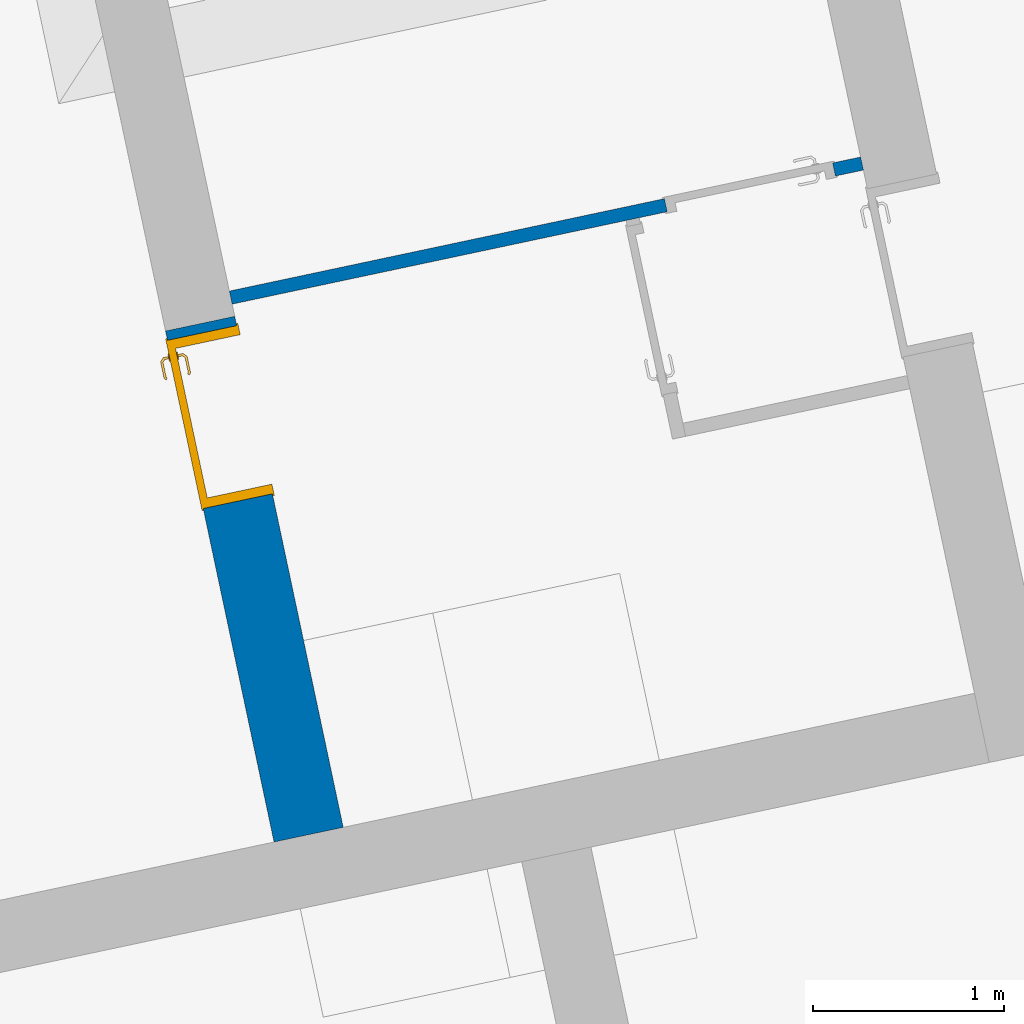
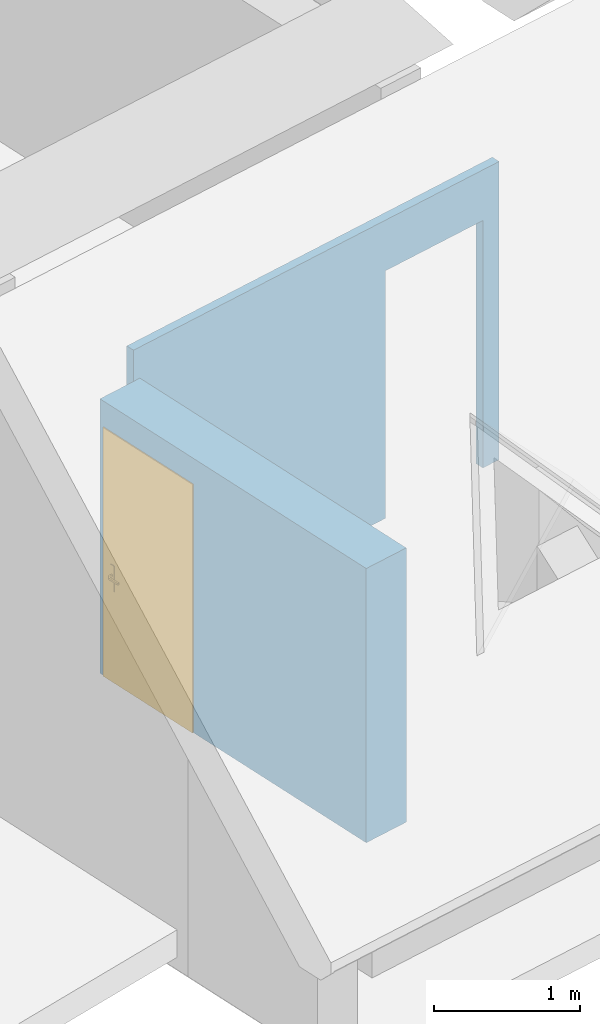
# One storey, part 3 of 10: 2 walls, 1 door, 2 openings.
"""IFC2X3 building model written with IfcOpenShell, lengths in centimetres."""

from ifc_helpers import new_model, entity, si_unit, converted_unit, derived_unit, direction, frame, frame_2d, origin, place, context, subcontext, project, spatial, rectangle, extrude, faceted_brep, source, transform, mapped, material, layer, layer_set, layer_usage, type_object, type_shapes, element, fill, save


model = new_model("IFC2X3")

# Units and contexts
model_context = context("Model", 3, precision=0.001, world=origin(), true_north=direction((6.12303176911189e-17, 1.0)))
body_context = subcontext(model_context, "Body", "Model", "MODEL_VIEW")
ifc_project = project(units=[si_unit("LENGTHUNIT", "METRE", prefix="CENTI"), si_unit("AREAUNIT", "SQUARE_METRE"), si_unit("VOLUMEUNIT", "CUBIC_METRE"), converted_unit("PLANEANGLEUNIT", "DEGREE", entity("IfcRatioMeasure", 0.0174532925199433), si_unit("PLANEANGLEUNIT", "RADIAN"), dimensions=[0, 0, 0, 0, 0, 0, 0]), si_unit("MASSUNIT", "GRAM", prefix="KILO"), derived_unit("MASSDENSITYUNIT", [(si_unit("MASSUNIT", "GRAM", prefix="KILO"), 1), (si_unit("LENGTHUNIT", "METRE"), -3)]), derived_unit("IONCONCENTRATIONUNIT", [(si_unit("MASSUNIT", "GRAM", prefix="KILO"), 1), (si_unit("LENGTHUNIT", "METRE"), -3)]), derived_unit("MOMENTOFINERTIAUNIT", [(si_unit("LENGTHUNIT", "METRE"), 4)]), si_unit("TIMEUNIT", "SECOND"), si_unit("FREQUENCYUNIT", "HERTZ"), si_unit("THERMODYNAMICTEMPERATUREUNIT", "DEGREE_CELSIUS"), derived_unit("THERMALTRANSMITTANCEUNIT", [(si_unit("MASSUNIT", "GRAM", prefix="KILO"), 1), (si_unit("THERMODYNAMICTEMPERATUREUNIT", "KELVIN"), -1), (si_unit("TIMEUNIT", "SECOND"), -3)]), derived_unit("THERMALCONDUCTANCEUNIT", [(si_unit("MASSUNIT", "GRAM", prefix="KILO"), 1), (si_unit("THERMODYNAMICTEMPERATUREUNIT", "KELVIN"), -1), (si_unit("TIMEUNIT", "SECOND"), -3), (si_unit("LENGTHUNIT", "METRE"), 1)]), derived_unit("VOLUMETRICFLOWRATEUNIT", [(si_unit("LENGTHUNIT", "METRE"), 3), (si_unit("TIMEUNIT", "SECOND"), -1)]), derived_unit("MASSFLOWRATEUNIT", [(si_unit("MASSUNIT", "GRAM", prefix="KILO"), 1), (si_unit("TIMEUNIT", "SECOND"), -1)]), derived_unit("ROTATIONALFREQUENCYUNIT", [(si_unit("TIMEUNIT", "SECOND"), -1)]), si_unit("ELECTRICCURRENTUNIT", "AMPERE"), si_unit("ELECTRICVOLTAGEUNIT", "VOLT"), si_unit("POWERUNIT", "WATT"), si_unit("FORCEUNIT", "NEWTON", prefix="KILO"), si_unit("ILLUMINANCEUNIT", "LUX"), si_unit("LUMINOUSFLUXUNIT", "LUMEN"), si_unit("LUMINOUSINTENSITYUNIT", "CANDELA"), derived_unit("USERDEFINED", [(si_unit("MASSUNIT", "GRAM", prefix="KILO"), -1), (si_unit("LENGTHUNIT", "METRE"), -2), (si_unit("TIMEUNIT", "SECOND"), 3), (si_unit("LUMINOUSFLUXUNIT", "LUMEN"), 1)]), derived_unit("USERDEFINED", [(si_unit("MASSUNIT", "GRAM", prefix="KILO"), 1), (si_unit("TIMEUNIT", "SECOND"), -3), (si_unit("LENGTHUNIT", "METRE"), 3), (si_unit("ELECTRICCURRENTUNIT", "AMPERE"), -2)]), derived_unit("SOUNDPOWERUNIT", [(si_unit("MASSUNIT", "GRAM", prefix="KILO"), 1), (si_unit("TIMEUNIT", "SECOND"), -3), (si_unit("LENGTHUNIT", "METRE"), 2)]), derived_unit("SOUNDPRESSUREUNIT", [(si_unit("MASSUNIT", "GRAM", prefix="KILO"), 1), (si_unit("LENGTHUNIT", "METRE"), -1), (si_unit("TIMEUNIT", "SECOND"), -2)]), derived_unit("LINEARVELOCITYUNIT", [(si_unit("LENGTHUNIT", "METRE"), 1), (si_unit("TIMEUNIT", "SECOND"), -1)]), si_unit("PRESSUREUNIT", "PASCAL"), derived_unit("USERDEFINED", [(si_unit("MASSUNIT", "GRAM", prefix="KILO"), 1), (si_unit("LENGTHUNIT", "METRE"), -2), (si_unit("TIMEUNIT", "SECOND"), -2)]), derived_unit("LINEARFORCEUNIT", [(si_unit("MASSUNIT", "GRAM", prefix="KILO"), 1), (si_unit("TIMEUNIT", "SECOND"), -2)]), derived_unit("PLANARFORCEUNIT", [(si_unit("MASSUNIT", "GRAM", prefix="KILO"), 1), (si_unit("LENGTHUNIT", "METRE"), -1), (si_unit("TIMEUNIT", "SECOND"), -2)]), derived_unit("SPECIFICHEATCAPACITYUNIT", [(si_unit("THERMODYNAMICTEMPERATUREUNIT", "KELVIN"), -1), (si_unit("LENGTHUNIT", "METRE"), 2), (si_unit("TIMEUNIT", "SECOND"), -2)]), derived_unit("HEATINGVALUEUNIT", [(si_unit("LENGTHUNIT", "METRE"), 2), (si_unit("TIMEUNIT", "SECOND"), -2)]), derived_unit("VAPORPERMEABILITYUNIT", [(si_unit("LENGTHUNIT", "METRE"), -1), (si_unit("TIMEUNIT", "SECOND"), 1)]), derived_unit("DYNAMICVISCOSITYUNIT", [(si_unit("MASSUNIT", "GRAM", prefix="KILO"), 1), (si_unit("TIMEUNIT", "SECOND"), -1), (si_unit("LENGTHUNIT", "METRE"), -1)]), derived_unit("THERMALEXPANSIONCOEFFICIENTUNIT", [(si_unit("THERMODYNAMICTEMPERATUREUNIT", "KELVIN"), -1)]), derived_unit("MODULUSOFELASTICITYUNIT", [(si_unit("MASSUNIT", "GRAM", prefix="KILO"), 1), (si_unit("LENGTHUNIT", "METRE"), -1), (si_unit("TIMEUNIT", "SECOND"), -2)]), derived_unit("ISOTHERMALMOISTURECAPACITYUNIT", [(si_unit("LENGTHUNIT", "METRE"), 3), (si_unit("MASSUNIT", "GRAM", prefix="KILO"), -1)]), derived_unit("MOISTUREDIFFUSIVITYUNIT", [(si_unit("TIMEUNIT", "SECOND"), -1), (si_unit("LENGTHUNIT", "METRE"), 2)])], contexts=[model_context])

# Site, building, storey
site_placement = place(None, frame((14083.8920177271, -6853.25409548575, 6900.0), z_axis=(0.0, 0.0, 1.0), x_axis=(0.978188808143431, 0.207717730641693, 0.0)))
site = spatial("IfcSite", under=ifc_project, at=site_placement, Name="Surface", CompositionType="ELEMENT")
building_placement = place(site_placement, origin())
building = spatial("IfcBuilding", under=site, at=building_placement, CompositionType="ELEMENT")
storey_placement = place(building_placement, frame((0.0, 0.0, 289.0)))
storey = spatial("IfcBuildingStorey", under=building, at=storey_placement, Name="_R+1", CompositionType="ELEMENT", Elevation=289.0)

# Wall, opening, door
ifc_material_1 = material(Name="__ ENDUIT_Blanc")
ifc_layer_1 = layer(ifc_material_1, 2.0)
ifc_material_2 = material(Name="__ BETON_parpaings")
ifc_layer_2 = layer(ifc_material_2, 20.0)
ifc_material_3 = material(Name="__ ISOLANT (pat 1)")
ifc_layer_3 = layer(ifc_material_3, 13.0)
ifc_layer_4 = layer(ifc_material_1, 2.0)
ifc_layer_set_1 = layer_set([ifc_layer_1, ifc_layer_2, ifc_layer_3, ifc_layer_4], Name="Mur de base:*BRIQUE 37 (20 +INT 13+2 + EXT 2) (Iso+BA13)(enduit)")
ifc_layer_usage_1 = layer_usage(ifc_layer_set_1, "AXIS2", "POSITIVE", -18.5)
wall_type_1 = type_object("IfcWallType", Name="Mur de base:*BRIQUE 37 (20 +INT 13+2 + EXT 2) (Iso+BA13)(enduit)", PredefinedType="STANDARD", material=ifc_layer_set_1)
wall_1_placement = place(storey_placement, frame((-7520.29714756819, 15156.1673447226, 0.0), z_axis=(0.0, 0.0, 1.0), x_axis=(0.0, -1.0, 0.0)))
wall_1 = element("IfcWallStandardCase", 1, at=wall_1_placement, inside=storey, type_object=wall_type_1, material=ifc_layer_usage_1, Name="Mur de base:*BRIQUE 37 (20 +INT 13+2 + EXT 2) (Iso+BA13)(enduit)", ObjectType="Mur de base:*BRIQUE 37 (20 +INT 13+2 + EXT 2) (Iso+BA13)(enduit)", context=body_context, shape_type="SweptSolid", body=[
    extrude(rectangle(XDim=273.494866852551, YDim=37.0000000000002, at=frame_2d((136.747433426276, 0.0), x_axis=(-1.0, 0.0))), origin(), (0.0, 0.0, 1.0), 230.0),
])
opening_1_placement = place(wall_1_placement, frame((95.0, 18.5, 0.0)))
opening_1 = element("IfcOpeningElement", 2, at=opening_1_placement, cuts=wall_1, Name="*Porte_alveolaire:Pp 83 x 204:1", ObjectType="Opening", context=body_context, shape_type="SweptSolid", body=[
    extrude(rectangle(XDim=207.5, YDim=89.9999999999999, at=frame_2d((103.75, 45.0), x_axis=(1.0, 0.0))), frame((0.0, 0.0, 0.0), z_axis=(0.0, -1.0, 0.0), x_axis=(0.0, 0.0, 1.0)), (0.0, 0.0, 1.0), 37.0),
])
ifc_material_4 = material(Name="<Unnamed>")
door_style = type_object("IfcDoorStyle", Name="*Porte_alveolaire:Pp 83 x 204", ConstructionType="NOTDEFINED", OperationType="NOTDEFINED", ParameterTakesPrecedence=False, Sizeable=False, material=ifc_material_4)
shared_shape = source(origin(), body_context, "Body", "Brep", [
    faceted_brep([(8.7974701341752, 3.69999999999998, 89.2219559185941), (9.20252986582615, 3.69999999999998, 89.221955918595), (9.60000000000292, 3.69999999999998, 89.3000000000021), (9.60000000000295, 3.69999999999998, 90.699999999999), (9.20252986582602, 3.69999999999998, 90.7780440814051), (8.79747013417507, 3.69999999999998, 90.7780440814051), (8.39999999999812, 3.69999999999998, 90.699999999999), (8.39999999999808, 3.69999999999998, 89.2999999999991), (9.60000000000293, 5.94852045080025, 89.3000000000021), (9.60000000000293, 5.94852045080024, 90.699999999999), (9.20252986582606, 6.11315797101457, 90.7780440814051), (10.5838906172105, 7.49451872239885, 90.7780440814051), (10.4161093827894, 7.8995784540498, 90.7780440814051), (8.7974701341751, 6.28093920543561, 90.7780440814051), (19.5684749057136, 6.84673156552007, 90.7780440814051), (19.8548953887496, 7.13315204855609, 90.7780440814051), (19.0884689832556, 7.8995784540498, 90.7780440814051), (18.9206877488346, 7.49451872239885, 90.7780440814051), (8.39999999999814, 6.44557672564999, 90.699999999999), (8.39999999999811, 6.44557672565, 89.2999999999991), (8.7974701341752, 6.28093920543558, 89.2219559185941), (10.4161093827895, 7.89957845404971, 89.2219559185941), (10.5838906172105, 7.49451872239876, 89.221955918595), (9.20252986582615, 6.11315797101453, 89.221955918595), (19.8548953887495, 7.13315204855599, 89.221955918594), (19.5684749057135, 6.84673156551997, 89.221955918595), (18.9206877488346, 7.49451872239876, 89.221955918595), (19.0884689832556, 7.89957845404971, 89.221955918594), (10.7485281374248, 7.09704858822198, 89.3000000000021), (10.7485281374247, 7.09704858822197, 90.699999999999), (10.2514718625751, 8.29704858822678, 90.699999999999), (10.2514718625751, 8.2970485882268, 89.2999999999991), (14.7522879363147, 7.097048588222, 89.300000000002), (18.7560502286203, 7.09704858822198, 89.300000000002), (18.7560502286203, 7.09704858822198, 90.699999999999), (14.7522891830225, 7.09704858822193, 90.699999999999), (14.7522891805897, 7.71249275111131, 90.7878116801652), (19.25310650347, 8.29704858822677, 90.699999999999), (15.2600577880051, 8.29704858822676, 90.699999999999), (19.25310650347, 8.29704858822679, 89.2999999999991), (14.2445205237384, 8.29704858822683, 89.2999999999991), (14.7522892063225, 7.7124927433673, 89.2121883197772), (19.287421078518, 6.56567773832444, 89.300000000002), (20.1359492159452, 7.41420587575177, 89.2999999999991), (20.1359492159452, 7.41420587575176, 90.699999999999), (19.287421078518, 6.56567773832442, 90.699999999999)], [[[0, 1, 2, 3, 4, 5, 6, 7]], [[3, 2, 8, 9]], [[9, 10, 4, 3]], [[10, 11, 12, 13, 5, 4]], [[14, 15, 16, 17]], [[13, 18, 6, 5]], [[7, 6, 18, 19]], [[19, 20, 0, 7]], [[20, 21, 22, 23, 1, 0]], [[24, 25, 26, 27]], [[23, 8, 2, 1]], [[9, 8, 28, 29]], [[29, 11, 10, 9]], [[12, 30, 18, 13]], [[19, 18, 30, 31]], [[31, 21, 20, 19]], [[22, 28, 8, 23]], [[28, 32, 33, 34, 35, 29]], [[11, 35, 36]], [[16, 37, 38]], [[30, 12, 38]], [[38, 12, 36]], [[36, 35, 17]], [[17, 16, 36]], [[35, 11, 29]], [[34, 17, 35]], [[11, 36, 12]], [[38, 36, 16]], [[31, 30, 38, 37, 39, 40]], [[40, 41, 21]], [[41, 40, 27]], [[21, 31, 40]], [[39, 27, 40]], [[41, 32, 22]], [[22, 21, 41]], [[26, 32, 41]], [[28, 22, 32]], [[32, 26, 33]], [[26, 41, 27]], [[42, 25, 24, 43, 44, 15, 14, 45]], [[34, 33, 42, 45]], [[45, 14, 17, 34]], [[15, 44, 37, 16]], [[39, 37, 44, 43]], [[43, 24, 27, 39]], [[25, 42, 33, 26]]]),
    faceted_brep([(8.79747013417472, -1.30000000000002, 90.7780440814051), (9.20252986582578, -1.30000000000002, 90.7780440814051), (9.60000000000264, -1.30000000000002, 90.6999999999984), (9.60000000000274, -1.30000000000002, 89.3000000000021), (9.20252986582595, -1.30000000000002, 89.221955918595), (8.79747013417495, -1.30000000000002, 89.221955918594), (8.39999999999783, -1.30000000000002, 89.2999999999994), (8.39999999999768, -1.30000000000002, 90.699999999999), (8.39999999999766, -4.06509507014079, 90.6999999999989), (8.79747013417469, -3.9004575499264, 90.7780440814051), (10.402358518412, -5.50534593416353, 90.7780440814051), (10.570139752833, -5.10028620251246, 90.7780440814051), (9.20252986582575, -3.73267631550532, 90.7780440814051), (19.852181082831, -4.73891952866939, 90.778044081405), (19.5657605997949, -4.45249904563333, 90.778044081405), (18.9179734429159, -5.10028620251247, 90.778044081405), (19.085754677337, -5.50534593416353, 90.778044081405), (9.60000000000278, -3.56803879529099, 90.699999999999), (9.60000000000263, -3.56803879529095, 89.3000000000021), (9.20252986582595, -3.73267631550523, 89.221955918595), (10.5701397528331, -5.10028620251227, 89.221955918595), (10.4023585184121, -5.50534593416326, 89.221955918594), (8.79747013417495, -3.90045754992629, 89.221955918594), (19.5657605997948, -4.45249904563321, 89.221955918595), (19.8521810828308, -4.73891952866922, 89.221955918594), (19.0857546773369, -5.50534593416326, 89.221955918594), (18.9179734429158, -5.10028620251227, 89.221955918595), (8.39999999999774, -4.06509507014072, 89.2999999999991), (10.2377209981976, -5.90281606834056, 90.6999999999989), (10.7347772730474, -4.70281606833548, 90.699999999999), (10.7347772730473, -4.70281606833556, 89.3000000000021), (10.2377209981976, -5.90281606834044, 89.2999999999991), (14.2307697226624, -5.90281606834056, 90.6999999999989), (14.7440566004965, -5.31828027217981, 90.7878115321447), (19.2503921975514, -5.90281606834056, 90.6999999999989), (14.7440565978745, -4.70281606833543, 90.699999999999), (18.7533359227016, -4.70281606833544, 90.6999999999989), (18.7533359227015, -4.70281606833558, 89.300000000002), (14.7440563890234, -4.70281606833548, 89.3000000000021), (14.7440565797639, -5.31828027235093, 89.2121884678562), (19.2503921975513, -5.90281606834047, 89.2999999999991), (15.2573436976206, -5.90281606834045, 89.2999999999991), (19.2847067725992, -4.17144521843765, 90.6999999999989), (20.1332349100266, -5.01997335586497, 90.6999999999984), (20.1332349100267, -5.019973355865, 89.2999999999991), (19.2847067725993, -4.17144521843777, 89.3000000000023)], [[[0, 1, 2, 3, 4, 5, 6, 7]], [[8, 9, 0, 7]], [[9, 10, 11, 12, 1, 0]], [[13, 14, 15, 16]], [[12, 17, 2, 1]], [[3, 2, 17, 18]], [[18, 19, 4, 3]], [[19, 20, 21, 22, 5, 4]], [[23, 24, 25, 26]], [[22, 27, 6, 5]], [[7, 6, 27, 8]], [[28, 10, 9, 8]], [[11, 29, 17, 12]], [[18, 17, 29, 30]], [[30, 20, 19, 18]], [[21, 31, 27, 22]], [[8, 27, 31, 28]], [[32, 33, 10]], [[33, 32, 16]], [[10, 28, 32]], [[34, 16, 32]], [[33, 35, 11]], [[11, 10, 33]], [[15, 35, 33]], [[29, 11, 35]], [[35, 15, 36]], [[15, 33, 16]], [[30, 29, 35, 36, 37, 38]], [[20, 38, 39]], [[25, 40, 41]], [[31, 21, 41]], [[41, 21, 39]], [[39, 38, 26]], [[26, 25, 39]], [[38, 20, 30]], [[37, 26, 38]], [[20, 39, 21]], [[41, 39, 25]], [[28, 31, 41, 40, 34, 32]], [[42, 14, 13, 43, 44, 24, 23, 45]], [[43, 13, 16, 34]], [[14, 42, 36, 15]], [[37, 36, 42, 45]], [[45, 23, 26, 37]], [[24, 44, 40, 25]], [[34, 40, 44, 43]]]),
    faceted_brep([(10.03527618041, 3.19999999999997, 76.6003983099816), (11.0, 3.19999999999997, 77.0), (11.0, 3.19999999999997, 98.0), (10.03527618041, 3.19999999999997, 98.3996016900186), (9.0, 3.19999999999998, 98.5358983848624), (7.96472381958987, 3.19999999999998, 98.3996016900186), (7.0, 3.19999999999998, 98.0), (7.0, 3.19999999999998, 77.0), (7.96472381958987, 3.19999999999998, 76.6003983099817), (9.0, 3.19999999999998, 76.4641016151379), (10.03527618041, 3.69999999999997, 98.3996016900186), (11.0, 3.69999999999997, 98.0), (11.0, 3.69999999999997, 77.0), (10.03527618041, 3.69999999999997, 76.6003983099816), (9.0, 3.69999999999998, 76.4641016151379), (7.96472381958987, 3.69999999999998, 76.6003983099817), (7.0, 3.69999999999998, 77.0), (7.0, 3.69999999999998, 98.0), (7.96472381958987, 3.69999999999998, 98.3996016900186), (9.0, 3.69999999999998, 98.5358983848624)], [[[0, 1, 2, 3, 4, 5, 6, 7, 8, 9]], [[10, 11, 12, 13, 14, 15, 16, 17, 18, 19]], [[11, 10, 3, 2]], [[3, 10, 19, 4]], [[19, 18, 5, 4]], [[18, 17, 6, 5]], [[7, 6, 17, 16]], [[16, 15, 8, 7]], [[8, 15, 14, 9]], [[14, 13, 0, 9]], [[13, 12, 1, 0]], [[2, 1, 12, 11]]]),
    faceted_brep([(10.03527618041, -1.30000000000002, 76.6003983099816), (11.0, -1.30000000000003, 77.0), (11.0, -1.30000000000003, 98.0), (10.03527618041, -1.30000000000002, 98.3996016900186), (9.0, -1.30000000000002, 98.5358983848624), (7.96472381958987, -1.30000000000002, 98.3996016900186), (7.0, -1.30000000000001, 98.0), (7.0, -1.30000000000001, 77.0), (7.96472381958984, -1.30000000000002, 76.6003983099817), (9.0, -1.30000000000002, 76.4641016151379), (10.03527618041, -0.800000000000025, 98.3996016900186), (11.0, -0.800000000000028, 98.0), (11.0, -0.800000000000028, 77.0), (10.03527618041, -0.800000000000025, 76.6003983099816), (9.0, -0.800000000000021, 76.4641016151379), (7.96472381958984, -0.800000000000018, 76.6003983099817), (7.0, -0.800000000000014, 77.0), (7.0, -0.800000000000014, 98.0), (7.96472381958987, -0.800000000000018, 98.3996016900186), (9.0, -0.800000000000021, 98.5358983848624)], [[[0, 1, 2, 3, 4, 5, 6, 7, 8, 9]], [[10, 11, 12, 13, 14, 15, 16, 17, 18, 19]], [[16, 15, 8, 7]], [[8, 15, 14, 9]], [[14, 13, 0, 9]], [[13, 12, 1, 0]], [[2, 1, 12, 11]], [[11, 10, 3, 2]], [[3, 10, 19, 4]], [[19, 18, 5, 4]], [[18, 17, 6, 5]], [[7, 6, 17, 16]]]),
    faceted_brep([(0.0, 0.0, 0.0), (0.0, 37.0, 0.0), (-1.0, 37.0, 0.0), (-1.0, 37.8000000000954, 0.0), (5.0, 37.8000000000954, 0.0), (5.0, 3.2, 0.0), (3.49999999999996, 3.2, 0.0), (3.49999999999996, -0.800000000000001, 0.0), (-1.0, -0.800000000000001, 0.0), (-1.0, 0.0, 0.0), (0.0, 0.0, 207.5), (0.0, 37.0, 207.5), (90.0, 37.0, 207.5), (90.0, 37.0, 0.0), (91.0, 37.0, 0.0), (91.0, 37.0, 208.5), (-1.0, 37.0, 208.5), (-1.0, 37.8000000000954, 208.5), (91.0, 37.8000000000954, 208.5), (91.0, 37.8000000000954, 0.0), (85.0, 37.8000000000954, 0.0), (85.0, 37.8000000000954, 202.500000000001), (5.0, 37.8000000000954, 202.500000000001), (5.0, 3.2, 202.500000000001), (85.0, 3.2, 202.500000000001), (85.0, 3.2, 0.0), (86.5, 3.2, 0.0), (86.5, 3.2, 204.0), (3.49999999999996, 3.2, 204.0), (3.49999999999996, -0.800000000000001, 204.0), (86.5, -0.800000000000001, 204.0), (86.5, -0.800000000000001, 0.0), (91.0, -0.800000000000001, 0.0), (91.0, -0.800000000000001, 208.5), (-1.0, -0.800000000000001, 208.5), (-1.0, 0.0, 208.5), (91.0, 0.0, 208.5), (91.0, 0.0, 0.0), (90.0, 0.0, 0.0), (90.0, 0.0, 207.5)], [[[0, 1, 2, 3, 4, 5, 6, 7, 8, 9]], [[1, 0, 10, 11]], [[2, 1, 11, 12, 13, 14, 15, 16]], [[3, 2, 16, 17]], [[4, 3, 17, 18, 19, 20, 21, 22]], [[5, 4, 22, 23]], [[6, 5, 23, 24, 25, 26, 27, 28]], [[7, 6, 28, 29]], [[8, 7, 29, 30, 31, 32, 33, 34]], [[9, 8, 34, 35]], [[0, 9, 35, 36, 37, 38, 39, 10]], [[12, 39, 38, 13]], [[38, 37, 32, 31, 26, 25, 20, 19, 14, 13]], [[18, 15, 14, 19]], [[24, 21, 20, 25]], [[30, 27, 26, 31]], [[36, 33, 32, 37]], [[11, 10, 39, 12]], [[17, 16, 15, 18]], [[23, 22, 21, 24]], [[29, 28, 27, 30]], [[35, 34, 33, 36]]]),
    faceted_brep([(3.49999999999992, -0.800000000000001, 204.0), (3.49999999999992, -0.800000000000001, 0.0), (86.5, -0.800000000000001, 0.0), (86.5, -0.800000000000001, 204.0), (3.49999999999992, 3.2, 204.0), (86.5, 3.2, 204.0), (86.5, 3.2, 0.0), (3.49999999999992, 3.2, 0.0)], [[[0, 1, 2, 3]], [[4, 5, 6, 7]], [[1, 0, 4, 7]], [[2, 1, 7, 6]], [[3, 2, 6, 5]], [[0, 3, 5, 4]]]),
])
type_shapes(door_style, [shared_shape])
door_placement = place(opening_1_placement, frame((-90.0, -37.0, 0.0)))
door = element("IfcDoor", 3, at=door_placement, inside=storey, type_object=door_style, material=ifc_material_4, Name="*Porte_alveolaire:Pp 83 x 204", ObjectType="*Porte_alveolaire:Pp 83 x 204", OverallHeight=207.5, OverallWidth=90.0000000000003, context=body_context, shape_type="MappedRepresentation", body=[
    mapped(shared_shape, transform((0.0, 0.0, 0.0), scale=1.0)),
])
fill(opening_1, door)

# Wall, opening
ifc_material_5 = material(Name="__ BA 13")
ifc_layer_5 = layer(ifc_material_5, 7.0)
ifc_layer_set_2 = layer_set([ifc_layer_5], Name="Mur de base:*Cloison 72/48 cm")
ifc_layer_usage_2 = layer_usage(ifc_layer_set_2, "AXIS2", "NEGATIVE", 3.5)
wall_type_2 = type_object("IfcWallType", Name="Mur de base:*Cloison 72/48 cm", PredefinedType="STANDARD", material=ifc_layer_set_2)
wall_2_placement = place(storey_placement, frame((-7501.79714756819, 15166.1724778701, 0.0)))
wall_2 = element("IfcWallStandardCase", 4, at=wall_2_placement, inside=storey, type_object=wall_type_2, material=ifc_layer_usage_2, Name="Mur de base:*Cloison 72/48 cm", ObjectType="Mur de base:*Cloison 72/48 cm", context=body_context, shape_type="SweptSolid", body=[
    extrude(rectangle(XDim=337.842004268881, YDim=7.00000000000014, at=frame_2d((168.921002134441, -9.11493103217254e-13), x_axis=(1.0, 0.0))), origin(), (0.0, 0.0, 1.0), 250.0),
])
opening_2_placement = place(wall_2_placement, frame((232.842004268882, -3.50000000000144, 0.0)))
element("IfcOpeningElement", 5, at=opening_2_placement, cuts=wall_2, Name="*Porte_alveolaire:Pp 83 x 204:1", ObjectType="Opening", context=body_context, shape_type="SweptSolid", body=[
    extrude(rectangle(XDim=207.5, YDim=89.9999999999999, at=frame_2d((103.75, 45.0000000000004), x_axis=(1.0, 0.0))), frame((0.0, 0.0, 0.0), z_axis=(0.0, 1.0, 0.0), x_axis=(0.0, 0.0, 1.0)), (0.0, 0.0, 1.0), 7.0),
])

save(model, "model.ifc")
